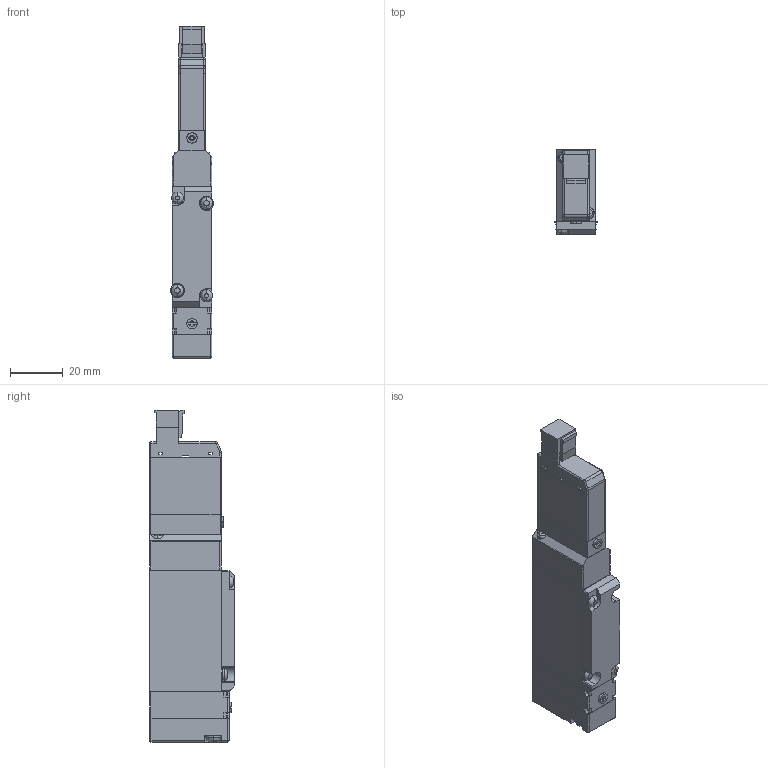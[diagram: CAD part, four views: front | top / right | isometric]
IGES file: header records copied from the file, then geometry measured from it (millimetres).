
Start section: ------------------------------------------------------------------------
Global section: file name: D:\ICADMX\tmp\trans3d_spg\CVICAD02.7120.F15T2-A1-PS_17031.igs; native system: spGate; preprocessor: ver12.6.6; author: Unknown; organization: Unknown; date: 210712.185003; units: millimetre
Bounding box: 16.2 x 32 x 125.5 mm (x, y, z)
Volume: 45209.7 mm3; surface area: 17556.2 mm2
Topology: 7 solids, 7 shells, 337 faces, 876 edges, 559 vertices
Faces by surface type: bspline 337
